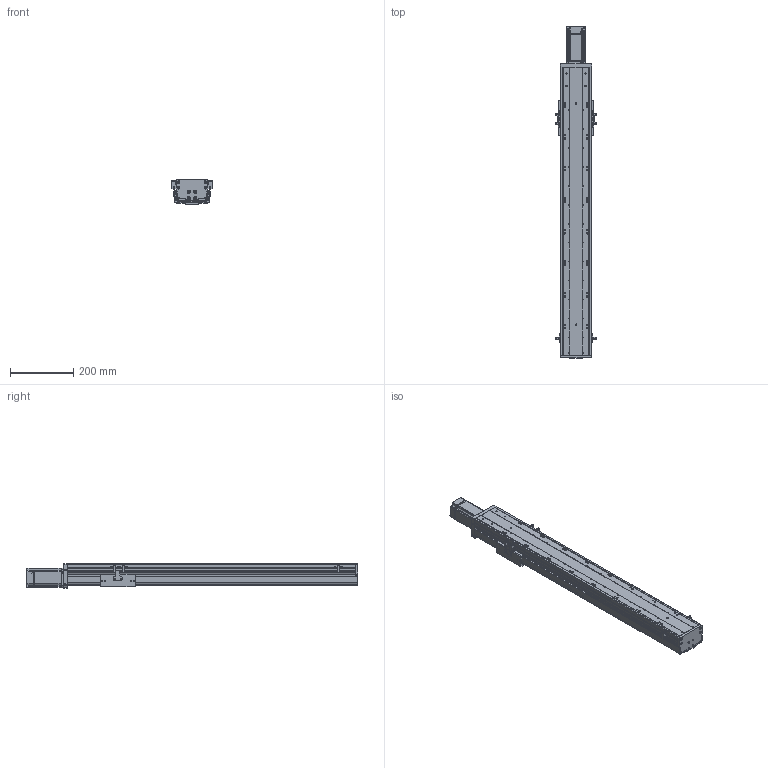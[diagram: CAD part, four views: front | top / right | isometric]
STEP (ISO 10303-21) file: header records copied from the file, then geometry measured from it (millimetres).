
FILE_DESCRIPTION (( 'STEP AP203' ), '1' );
FILE_NAME ('RY100FBS-L1610-300-MK(15双轨）.SLDASM_650.step', '2021-02-22T08:44:23', ( '盈信电脑' ), ( '东莞市道滘镇水果街19号' ), 'SwSTEP 2.0', 'SolidWorks 2012', '' );
FILE_SCHEMA (( 'CONFIG_CONTROL_DESIGN' ));
Length unit declared in the file: millimetre
Products named in the file (12): RY100FBS-L1610-300-MK(15双轨）.SLDASM_650; RY100FB-遵嫖萇覜茼え; 覜茼ん672; 侂狟400W侜督萇儂; 15; RY100FBS-前盖板(15双轨）; RY100FBS-后盖板(15双轨）; RY100FBS-300-上盖板(15双轨）_650; 滅袉蝶18-24; RY100FBS-铝滑块（16丝杆）; 滅袉蝶18-15; RY100FBS-300型材底座(15双轨）_650
Assembly tree (18 placements, depth 3):
  RY100FBS-L1610-300-MK(15双轨）.SLDASM_650
    RY100FBS-300型材底座(15双轨）_650
    滅袉蝶18-24  x2
    滅袉蝶18-15
    RY100FBS-铝滑块（16丝杆）
    RY100FBS-300-上盖板(15双轨）_650
    RY100FBS-前盖板(15双轨）
    RY100FBS-后盖板(15双轨）
    侂狟400W侜督萇儂
      15
    RY100FB-遵嫖萇覜茼え  x2
    覜茼ん672  x6
Bounding box: 127.4 x 1050.5 x 78.75 mm (x, y, z)
Volume: 2468587.9 mm3; surface area: 861977.8 mm2
Topology: 17 solids, 17 shells, 1797 faces, 5119 edges, 3356 vertices
Faces by surface type: plane 873, cylinder 792, cone 114, bspline 18
Entity records: 47668 total; most frequent: CARTESIAN_POINT 9981, DIRECTION 7690, ORIENTED_EDGE 7582, EDGE_CURVE 3791, AXIS2_PLACEMENT_3D 2783, VERTEX_POINT 2504, VECTOR 2124, LINE 2124
